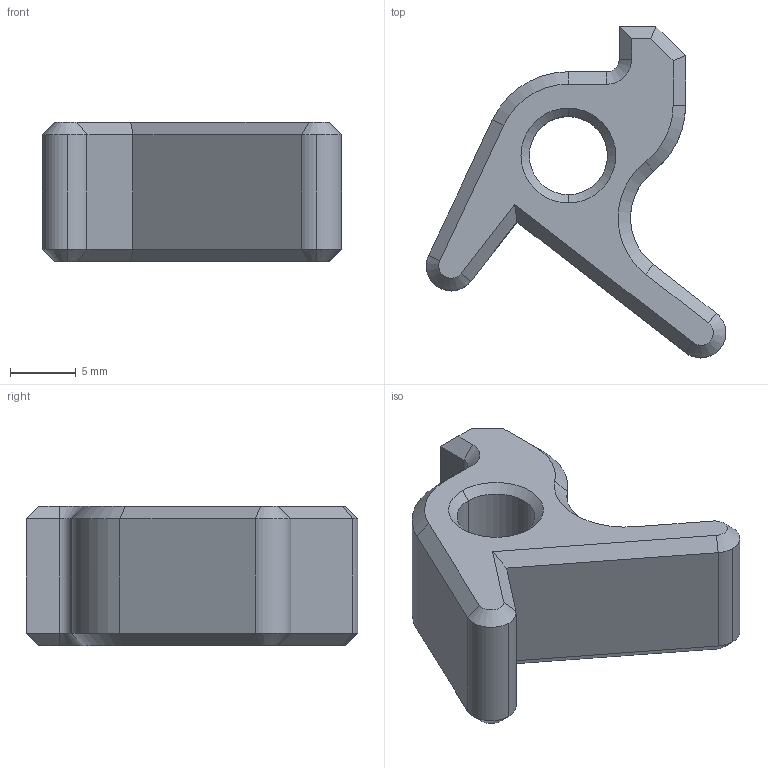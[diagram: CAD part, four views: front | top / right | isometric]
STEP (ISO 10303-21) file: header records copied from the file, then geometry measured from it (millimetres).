
FILE_DESCRIPTION (( 'STEP AP203' ), '1' );
FILE_NAME ('AF-HF-AS-PRT-001-STEP.STEP', '2020-10-30T17:25:04', ( '' ), ( '' ), 'SwSTEP 2.0', 'SolidWorks 2018', '' );
FILE_SCHEMA (( 'CONFIG_CONTROL_DESIGN' ));
Length unit declared in the file: inch
Products named in the file (1): AF-HF-AS-PRT-001-STEP
Bounding box: 22.84 x 25.32 x 10.63 mm (x, y, z)
Volume: 2361.7 mm3; surface area: 1491.3 mm2
Topology: 1 solids, 1 shells, 60 faces, 137 edges, 79 vertices
Faces by surface type: plane 29, cone 20, cylinder 11
Entity records: 1731 total; most frequent: DIRECTION 302, CARTESIAN_POINT 277, ORIENTED_EDGE 274, EDGE_CURVE 137, AXIS2_PLACEMENT_3D 104, VECTOR 94, LINE 94, VERTEX_POINT 79
